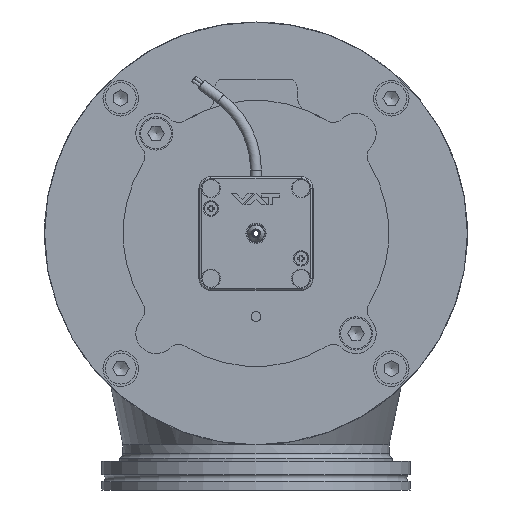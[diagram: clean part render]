
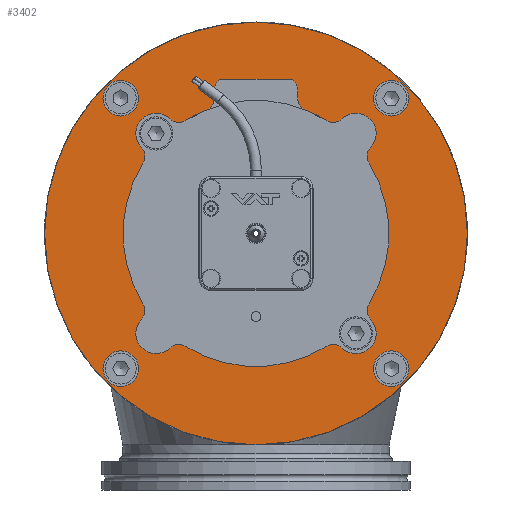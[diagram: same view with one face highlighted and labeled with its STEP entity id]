
A CAD part, left-side view. The second image highlights one B-rep face of the part: STEP entity #3402.
In plain terms, the highlighted planar face has unit normal (-1, 0, 0).
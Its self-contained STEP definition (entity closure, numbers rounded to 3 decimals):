
#3402=ADVANCED_FACE('BCT_REF_77270',(#4727,#4728,#4729,#4730,#4731,#4732,
#4733,#4734),#3730,.F.);
#3730=PLANE('',#13124);
#4218=CIRCLE('',#13065,89.);
#4250=CIRCLE('',#13117,3.4);
#4251=CIRCLE('',#13118,3.4);
#4252=CIRCLE('',#13119,7.5);
#4253=CIRCLE('',#13120,7.5);
#4254=CIRCLE('',#13121,7.5);
#4255=CIRCLE('',#13122,7.5);
#4256=CIRCLE('',#13123,55.145);
#4727=FACE_BOUND('',#5640,.T.);
#4728=FACE_BOUND('',#5641,.T.);
#4729=FACE_BOUND('',#5642,.T.);
#4730=FACE_BOUND('',#5643,.T.);
#4731=FACE_BOUND('',#5644,.T.);
#4732=FACE_BOUND('',#5645,.T.);
#4733=FACE_BOUND('',#5646,.T.);
#4734=FACE_BOUND('',#5647,.T.);
#5640=EDGE_LOOP('',(#8352));
#5641=EDGE_LOOP('',(#8353));
#5642=EDGE_LOOP('',(#8354));
#5643=EDGE_LOOP('',(#8355));
#5644=EDGE_LOOP('',(#8356));
#5645=EDGE_LOOP('',(#8357));
#5646=EDGE_LOOP('',(#8358));
#5647=EDGE_LOOP('',(#8359));
#8352=ORIENTED_EDGE('',*,*,#10746,.T.);
#8353=ORIENTED_EDGE('',*,*,#10747,.T.);
#8354=ORIENTED_EDGE('',*,*,#10748,.T.);
#8355=ORIENTED_EDGE('',*,*,#10749,.T.);
#8356=ORIENTED_EDGE('',*,*,#10750,.T.);
#8357=ORIENTED_EDGE('',*,*,#10751,.T.);
#8358=ORIENTED_EDGE('',*,*,#10752,.T.);
#8359=ORIENTED_EDGE('',*,*,#10712,.T.);
#9356=VERTEX_POINT('',#21824);
#9390=VERTEX_POINT('',#22026);
#9391=VERTEX_POINT('',#22028);
#9392=VERTEX_POINT('',#22030);
#9393=VERTEX_POINT('',#22032);
#9394=VERTEX_POINT('',#22034);
#9395=VERTEX_POINT('',#22036);
#9396=VERTEX_POINT('',#22038);
#10712=EDGE_CURVE('',#9356,#9356,#4218,.T.);
#10746=EDGE_CURVE('',#9390,#9390,#4250,.T.);
#10747=EDGE_CURVE('BCT_REF_77872',#9391,#9391,#4251,.T.);
#10748=EDGE_CURVE('BCT_REF_108915',#9392,#9392,#4252,.T.);
#10749=EDGE_CURVE('',#9393,#9393,#4253,.T.);
#10750=EDGE_CURVE('',#9394,#9394,#4254,.T.);
#10751=EDGE_CURVE('',#9395,#9395,#4255,.T.);
#10752=EDGE_CURVE('BCT_REF_78328',#9396,#9396,#4256,.T.);
#13065=AXIS2_PLACEMENT_3D('',#21823,#15871,#15872);
#13117=AXIS2_PLACEMENT_3D('',#22025,#15975,#15976);
#13118=AXIS2_PLACEMENT_3D('',#22027,#15977,#15978);
#13119=AXIS2_PLACEMENT_3D('',#22029,#15979,#15980);
#13120=AXIS2_PLACEMENT_3D('',#22031,#15981,#15982);
#13121=AXIS2_PLACEMENT_3D('',#22033,#15983,#15984);
#13122=AXIS2_PLACEMENT_3D('',#22035,#15985,#15986);
#13123=AXIS2_PLACEMENT_3D('',#22037,#15987,#15988);
#13124=AXIS2_PLACEMENT_3D('',#22039,#15989,#15990);
#15871=DIRECTION('',(-1.,0.,0.));
#15872=DIRECTION('',(0.,0.,1.));
#15975=DIRECTION('',(1.,0.,0.));
#15976=DIRECTION('',(0.,0.,1.));
#15977=DIRECTION('',(1.,0.,0.));
#15978=DIRECTION('',(0.,0.,-1.));
#15979=DIRECTION('',(1.,0.,0.));
#15980=DIRECTION('',(0.,-1.,0.));
#15981=DIRECTION('',(1.,0.,0.));
#15982=DIRECTION('',(0.,0.,1.));
#15983=DIRECTION('',(1.,0.,0.));
#15984=DIRECTION('',(0.,1.,0.));
#15985=DIRECTION('',(1.,0.,0.));
#15986=DIRECTION('',(0.,0.,-1.));
#15987=DIRECTION('',(1.,0.,0.));
#15988=DIRECTION('',(0.,0.,-1.));
#15989=DIRECTION('',(1.,0.,0.));
#15990=DIRECTION('',(0.,0.,-1.));
#21823=CARTESIAN_POINT('',(0.,0.,0.));
#21824=CARTESIAN_POINT('',(0.,0.,89.));
#22025=CARTESIAN_POINT('',(0.,-42.073,42.073));
#22026=CARTESIAN_POINT('',(0.,-42.073,45.473));
#22027=CARTESIAN_POINT('',(0.,42.073,-42.073));
#22028=CARTESIAN_POINT('',(0.,42.073,-45.473));
#22029=CARTESIAN_POINT('',(0.,56.922,-56.922));
#22030=CARTESIAN_POINT('',(0.,49.422,-56.922));
#22031=CARTESIAN_POINT('',(0.,-56.922,-56.922));
#22032=CARTESIAN_POINT('',(0.,-56.922,-49.422));
#22033=CARTESIAN_POINT('',(0.,-56.922,56.922));
#22034=CARTESIAN_POINT('',(0.,-49.422,56.922));
#22035=CARTESIAN_POINT('',(0.,56.922,56.922));
#22036=CARTESIAN_POINT('',(0.,56.922,49.422));
#22037=CARTESIAN_POINT('',(0.,0.,0.));
#22038=CARTESIAN_POINT('',(0.,0.,-55.145));
#22039=CARTESIAN_POINT('',(0.,89.,0.));
